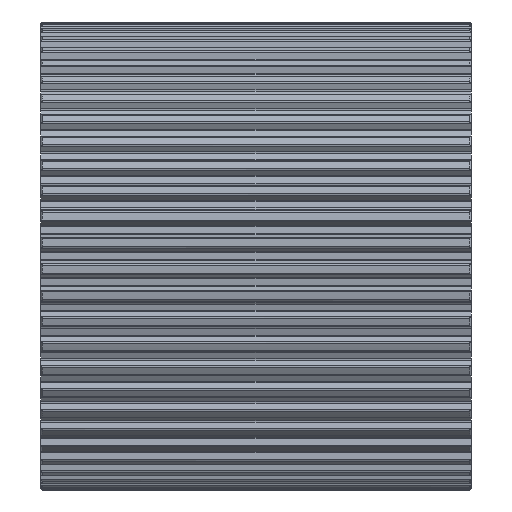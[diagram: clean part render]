
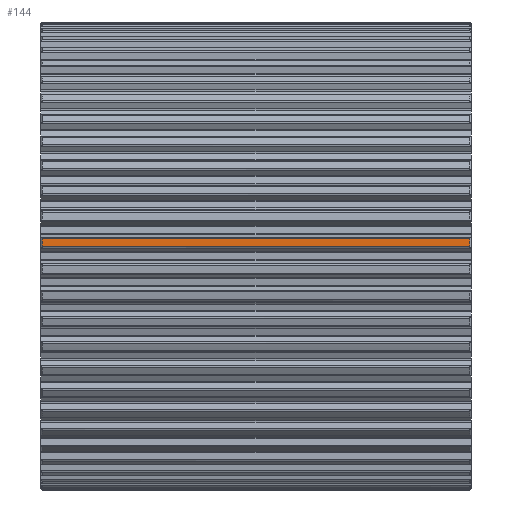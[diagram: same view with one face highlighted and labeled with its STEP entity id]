
A CAD part, front view. The second image highlights one B-rep face of the part: STEP entity #144.
In plain terms, the highlighted cylindrical face has radius 87.035 mm (diameter 174.07 mm), a partial arc.
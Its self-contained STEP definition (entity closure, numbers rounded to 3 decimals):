
#144=ADVANCED_FACE('',(#780),#781,.T.);
#780=FACE_OUTER_BOUND('',#1914,.T.);
#781=CYLINDRICAL_SURFACE('',#1915,87.035);
#1914=EDGE_LOOP('',(#3500,#3501,#3502,#3503));
#1915=AXIS2_PLACEMENT_3D('',#3504,#3505,#3506);
#3500=ORIENTED_EDGE('',*,*,#8329,.T.);
#3501=ORIENTED_EDGE('',*,*,#8330,.T.);
#3502=ORIENTED_EDGE('',*,*,#8331,.T.);
#3503=ORIENTED_EDGE('',*,*,#8332,.T.);
#3504=CARTESIAN_POINT('',(80.0,0.0,0.0));
#3505=DIRECTION('',(1.0,0.0,-0.0));
#3506=DIRECTION('',(0.0,0.057,0.998));
#8329=EDGE_CURVE('',#10349,#10358,#10360,.T.);
#8330=EDGE_CURVE('',#10358,#10361,#10362,.T.);
#8331=EDGE_CURVE('',#10361,#10363,#10364,.T.);
#8332=EDGE_CURVE('',#10363,#10349,#10365,.T.);
#10349=VERTEX_POINT('',#15123);
#10358=VERTEX_POINT('',#15159);
#10360=CIRCLE('',#15170,87.035);
#10361=VERTEX_POINT('',#15171);
#10362=LINE('',#15172,#15173);
#10363=VERTEX_POINT('',#15174);
#10364=CIRCLE('',#15175,87.035);
#10365=LINE('',#15176,#15177);
#15123=CARTESIAN_POINT('',(0.5,-86.796,6.449));
#15159=CARTESIAN_POINT('',(0.5,-86.965,3.487));
#15170=AXIS2_PLACEMENT_3D('',#20267,#20268,#20269);
#15171=CARTESIAN_POINT('',(159.5,-86.965,3.487));
#15172=CARTESIAN_POINT('',(80.0,-86.965,3.487));
#15173=VECTOR('',#20270,1.0);
#15174=CARTESIAN_POINT('',(159.5,-86.796,6.449));
#15175=AXIS2_PLACEMENT_3D('',#20271,#20272,#20273);
#15176=CARTESIAN_POINT('',(80.0,-86.796,6.449));
#15177=VECTOR('',#20274,1.0);
#20267=CARTESIAN_POINT('',(0.5,0.0,0.0));
#20268=DIRECTION('',(1.0,0.0,0.));
#20269=DIRECTION('',(0.,0.057,0.998));
#20270=DIRECTION('',(1.0,0.0,0.0));
#20271=CARTESIAN_POINT('',(159.5,0.0,0.0));
#20272=DIRECTION('',(-1.0,0.0,0.0));
#20273=DIRECTION('',(0.0,0.057,0.998));
#20274=DIRECTION('',(-1.0,0.0,0.0));
